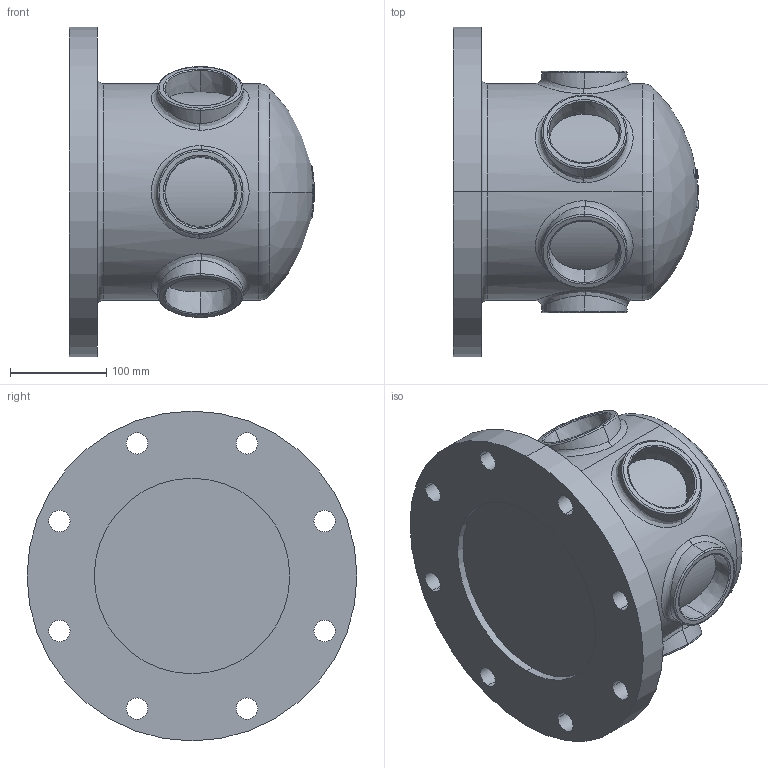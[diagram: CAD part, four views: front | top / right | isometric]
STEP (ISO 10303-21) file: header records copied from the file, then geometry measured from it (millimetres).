
FILE_DESCRIPTION (( 'STEP AP203' ), '1' );
FILE_NAME ('8in Test Header, 150A.STEP', '2019-06-06T19:57:58', ( '' ), ( '' ), 'SwSTEP 2.0', 'SolidWorks 2018', '' );
FILE_SCHEMA (( 'CONFIG_CONTROL_DESIGN' ));
Length unit declared in the file: inch
Products named in the file (1): 8in Test Header, 150A
Bounding box: 255.6 x 342.9 x 342.9 mm (x, y, z)
Volume: 10403821.4 mm3; surface area: 415717.3 mm2
Topology: 1 solids, 1 shells, 240 faces, 600 edges, 391 vertices
Faces by surface type: plane 77, bspline 54, cylinder 40, sphere 29, cone 24, torus 16
Entity records: 14495 total; most frequent: CARTESIAN_POINT 8834, ORIENTED_EDGE 1200, DIRECTION 1110, EDGE_CURVE 600, AXIS2_PLACEMENT_3D 471, VERTEX_POINT 391, EDGE_LOOP 285, CIRCLE 284
